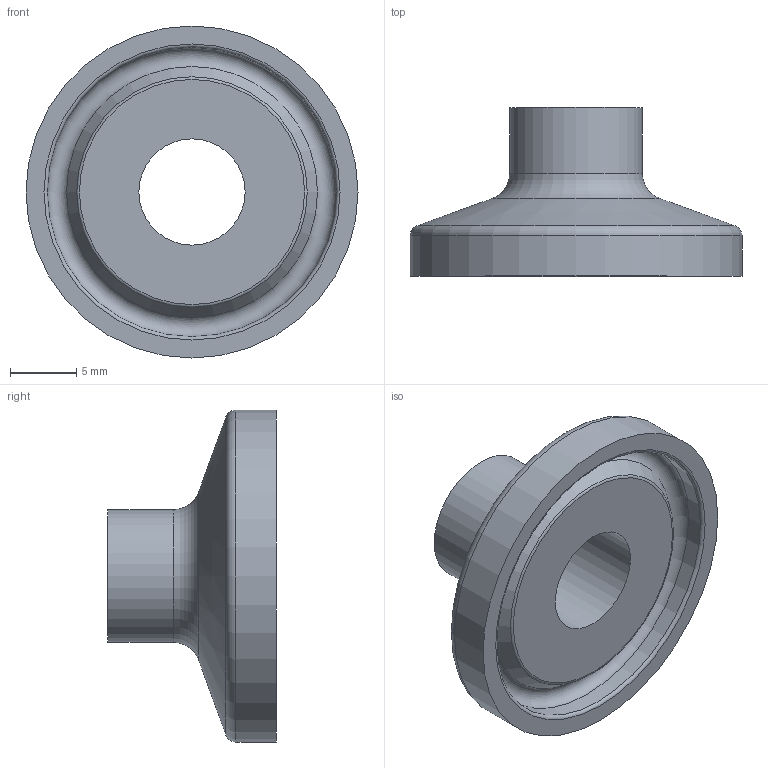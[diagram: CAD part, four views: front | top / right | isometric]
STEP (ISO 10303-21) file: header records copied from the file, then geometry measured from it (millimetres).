
FILE_DESCRIPTION(('Ferrule_10x1_L12,7_FL25_V12'),'2;1');
FILE_NAME('Ferrule_10x1_L12,7_FL25_V12.stp','2013-11-03T12:50:20',('DOCKWEILER AG'),('DOCKWEILER AG'),'Autodesk Inventor 2012','Autodesk Inventor 2012','');
FILE_SCHEMA(('CONFIG_CONTROL_DESIGN'));
Length unit declared in the file: millimetre
Products named in the file (1): N0003_003_001
Bounding box: 25 x 12.7 x 25 mm (x, y, z)
Volume: 1919.5 mm3; surface area: 1833.9 mm2
Topology: 1 solids, 1 shells, 14 faces, 25 edges, 14 vertices
Faces by surface type: torus 5, cylinder 4, plane 3, cone 2
Full cylindrical faces by diameter (mm): 8 x1, 10 x1, 21.8 x1, 25 x1
Entity records: 314 total; most frequent: DIRECTION 58, CARTESIAN_POINT 43, AXIS2_PLACEMENT_3D 29, ORIENTED_EDGE 28, EDGE_LOOP 28, VERTEX_POINT 14, CIRCLE 14, EDGE_CURVE 14
